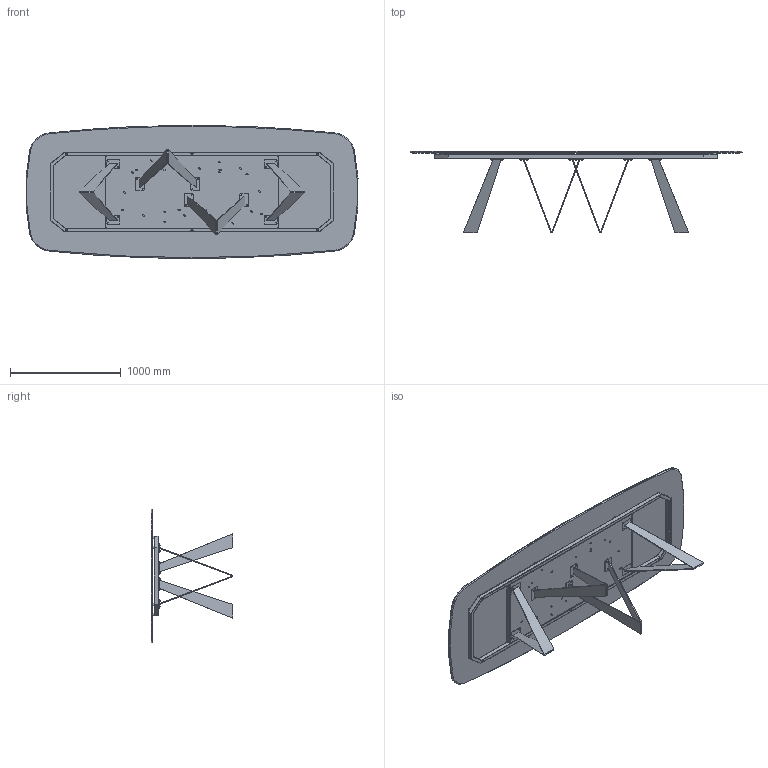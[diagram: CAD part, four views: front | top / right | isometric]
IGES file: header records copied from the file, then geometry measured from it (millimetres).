
Start section: SolidWorks IGES file using analytic representation for surfaces
Global section: file name: Y:\eforma\TECNICO\SOLIDWORKS\E-FORMA\1-TAVOLI\NOA TAVOLO\02 parts\NO44C_Noa_300x120x75h_Ceramic Shaped.IGS; native system: SolidWorks 2022; preprocessor: SolidWorks 2022; author: eforma.tech; date: 240807.163224; units: millimetre
Bounding box: 2991.72 x 735.8 x 1200 mm (x, y, z)
Volume: 64737565.6 mm3; surface area: 18940215.3 mm2
Topology: 56 solids, 56 shells, 1209 faces, 2821 edges, 1694 vertices
Faces by surface type: revolution 683, plane 526
